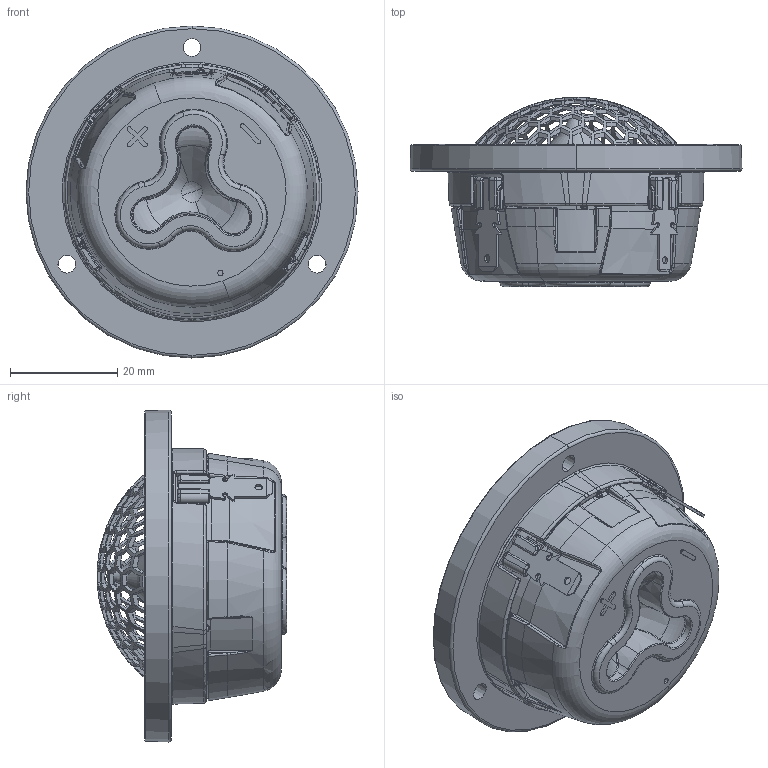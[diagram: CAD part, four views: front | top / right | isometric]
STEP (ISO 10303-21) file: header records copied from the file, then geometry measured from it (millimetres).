
FILE_DESCRIPTION (( 'STEP AP214' ), '1' );
FILE_NAME ('R3004-602006.STEP', '2020-12-15T10:17:45', ( '' ), ( '' ), 'SwSTEP 2.0', 'SolidWorks 2019', '' );
FILE_SCHEMA (( 'AUTOMOTIVE_DESIGN' ));
Length unit declared in the file: millimetre
Products named in the file (1): R3004-602006
Bounding box: 61.91 x 35.28 x 61.91 mm (x, y, z)
Volume: 43517.7 mm3; surface area: 17302 mm2
Topology: 3 solids, 5 shells, 1565 faces, 4298 edges, 2698 vertices
Faces by surface type: plane 773, bspline 257, torus 181, cylinder 181, cone 129, sphere 44
Entity records: 73484 total; most frequent: CARTESIAN_POINT 17474, ORIENTED_EDGE 8518, DIRECTION 8211, EDGE_CURVE 4259, AXIS2_PLACEMENT_3D 3538, VERTEX_POINT 2698, CIRCLE 2229, EDGE_LOOP 1725
